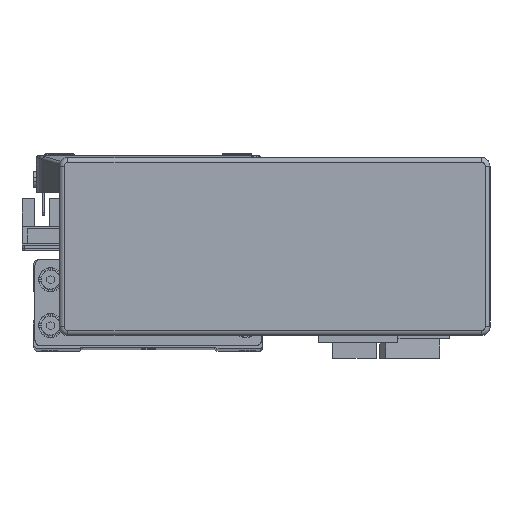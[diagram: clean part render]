
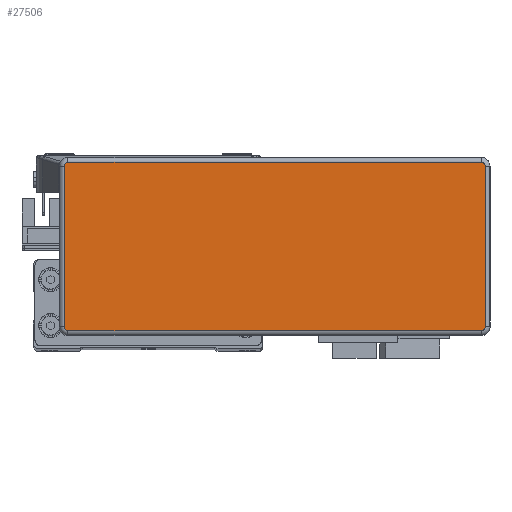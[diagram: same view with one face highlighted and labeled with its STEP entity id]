
A CAD part, top view. The second image highlights one B-rep face of the part: STEP entity #27506.
In plain terms, the highlighted planar face has unit normal (0, 0, 1) as drawn and (0, 0, -1) by its records, which use the part's own axes.
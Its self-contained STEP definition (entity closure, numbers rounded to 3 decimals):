
#4193 = CIRCLE ( 'NONE', #43105, 1.3 ) ;
#4209 = LINE ( 'NONE', #34784, #4234 ) ;
#4234 = VECTOR ( 'NONE', #34750, 1000. ) ;
#4330 = CIRCLE ( 'NONE', #43127, 1.3 ) ;
#4331 = LINE ( 'NONE', #34947, #4375 ) ;
#4333 = CIRCLE ( 'NONE', #43187, 1.3 ) ;
#4338 = VECTOR ( 'NONE', #34944, 1000. ) ;
#4352 = LINE ( 'NONE', #34909, #4338 ) ;
#4366 = VECTOR ( 'NONE', #34988, 1000. ) ;
#4369 = LINE ( 'NONE', #34984, #4366 ) ;
#4375 = VECTOR ( 'NONE', #34938, 1000. ) ;
#4393 = CIRCLE ( 'NONE', #43197, 1.3 ) ;
#12382 = ORIENTED_EDGE ( 'NONE', *, *, #25127, .T. ) ;
#12425 = ORIENTED_EDGE ( 'NONE', *, *, #25110, .T. ) ;
#12427 = ORIENTED_EDGE ( 'NONE', *, *, #25101, .T. ) ;
#12446 = ORIENTED_EDGE ( 'NONE', *, *, #25042, .T. ) ;
#12447 = ORIENTED_EDGE ( 'NONE', *, *, #25091, .T. ) ;
#12454 = ORIENTED_EDGE ( 'NONE', *, *, #25099, .T. ) ;
#12473 = ORIENTED_EDGE ( 'NONE', *, *, #25098, .T. ) ;
#12484 = ORIENTED_EDGE ( 'NONE', *, *, #25025, .T. ) ;
#23018 = DIRECTION ( 'NONE',  ( 1., 0., 0. ) ) ;
#23041 = PLANE ( 'NONE',  #44053 ) ;
#23043 = DIRECTION ( 'NONE',  ( 0., 0., 1. ) ) ;
#23057 = CARTESIAN_POINT ( 'NONE',  ( 71.995, -27.995, -32.2 ) ) ;
#23627 = FACE_OUTER_BOUND ( 'NONE', #38440, .T. ) ;
#25025 = EDGE_CURVE ( 'NONE', #36236, #36270, #4209, .T. ) ;
#25042 = EDGE_CURVE ( 'NONE', #36284, #36257, #4193, .T. ) ;
#25091 = EDGE_CURVE ( 'NONE', #36237, #36247, #4352, .T. ) ;
#25098 = EDGE_CURVE ( 'NONE', #36257, #36233, #4331, .T. ) ;
#25099 = EDGE_CURVE ( 'NONE', #36270, #36237, #4330, .T. ) ;
#25101 = EDGE_CURVE ( 'NONE', #36233, #36236, #4333, .T. ) ;
#25110 = EDGE_CURVE ( 'NONE', #36256, #36284, #4369, .T. ) ;
#25127 = EDGE_CURVE ( 'NONE', #36247, #36256, #4393, .T. ) ;
#27506 = ADVANCED_FACE ( 'NONE', ( #23627 ), #23041, .F. ) ;
#31691 = CARTESIAN_POINT ( 'NONE',  ( -71.995, -29.295, -32.2 ) ) ;
#31702 = CARTESIAN_POINT ( 'NONE',  ( 71.995, -29.295, -32.2 ) ) ;
#31703 = CARTESIAN_POINT ( 'NONE',  ( -73.295, -27.995, -32.2 ) ) ;
#31714 = CARTESIAN_POINT ( 'NONE',  ( -71.995, 29.295, -32.2 ) ) ;
#31715 = CARTESIAN_POINT ( 'NONE',  ( 73.295, 27.995, -32.2 ) ) ;
#31719 = CARTESIAN_POINT ( 'NONE',  ( 71.995, 29.295, -32.2 ) ) ;
#31738 = CARTESIAN_POINT ( 'NONE',  ( -73.295, 27.995, -32.2 ) ) ;
#31745 = CARTESIAN_POINT ( 'NONE',  ( 73.295, -27.995, -32.2 ) ) ;
#34750 = DIRECTION ( 'NONE',  ( -1., 0., 0. ) ) ;
#34784 = CARTESIAN_POINT ( 'NONE',  ( 71.995, -29.295, -32.2 ) ) ;
#34792 = CARTESIAN_POINT ( 'NONE',  ( 71.995, 27.995, -32.2 ) ) ;
#34807 = DIRECTION ( 'NONE',  ( 0., 0., -1. ) ) ;
#34830 = DIRECTION ( 'NONE',  ( 1., 0., 0. ) ) ;
#34909 = CARTESIAN_POINT ( 'NONE',  ( -73.295, -27.995, -32.2 ) ) ;
#34928 = CARTESIAN_POINT ( 'NONE',  ( -71.995, -27.995, -32.2 ) ) ;
#34938 = DIRECTION ( 'NONE',  ( 0., -1., 0. ) ) ;
#34941 = DIRECTION ( 'NONE',  ( 0., 0., -1. ) ) ;
#34942 = DIRECTION ( 'NONE',  ( 1., 0., 0. ) ) ;
#34944 = DIRECTION ( 'NONE',  ( 0., 1., 0. ) ) ;
#34947 = CARTESIAN_POINT ( 'NONE',  ( 73.295, -27.995, -32.2 ) ) ;
#34962 = DIRECTION ( 'NONE',  ( 1., 0., 0. ) ) ;
#34967 = DIRECTION ( 'NONE',  ( 0., 0., -1. ) ) ;
#34984 = CARTESIAN_POINT ( 'NONE',  ( 71.995, 29.295, -32.2 ) ) ;
#34988 = DIRECTION ( 'NONE',  ( 1., 0., 0. ) ) ;
#34995 = CARTESIAN_POINT ( 'NONE',  ( 71.995, -27.995, -32.2 ) ) ;
#35040 = CARTESIAN_POINT ( 'NONE',  ( -71.995, 27.995, -32.2 ) ) ;
#35041 = DIRECTION ( 'NONE',  ( 0., 0., -1. ) ) ;
#35043 = DIRECTION ( 'NONE',  ( 1., 0., 0. ) ) ;
#36233 = VERTEX_POINT ( 'NONE', #31745 ) ;
#36236 = VERTEX_POINT ( 'NONE', #31702 ) ;
#36237 = VERTEX_POINT ( 'NONE', #31703 ) ;
#36247 = VERTEX_POINT ( 'NONE', #31738 ) ;
#36256 = VERTEX_POINT ( 'NONE', #31714 ) ;
#36257 = VERTEX_POINT ( 'NONE', #31715 ) ;
#36270 = VERTEX_POINT ( 'NONE', #31691 ) ;
#36284 = VERTEX_POINT ( 'NONE', #31719 ) ;
#38440 = EDGE_LOOP ( 'NONE', ( #12473, #12427, #12484, #12454, #12447, #12382, #12425, #12446 ) ) ;
#43105 = AXIS2_PLACEMENT_3D ( 'NONE', #34792, #34807, #34830 ) ;
#43127 = AXIS2_PLACEMENT_3D ( 'NONE', #34928, #34941, #34942 ) ;
#43187 = AXIS2_PLACEMENT_3D ( 'NONE', #34995, #34967, #34962 ) ;
#43197 = AXIS2_PLACEMENT_3D ( 'NONE', #35040, #35041, #35043 ) ;
#44053 = AXIS2_PLACEMENT_3D ( 'NONE', #23057, #23043, #23018 ) ;
